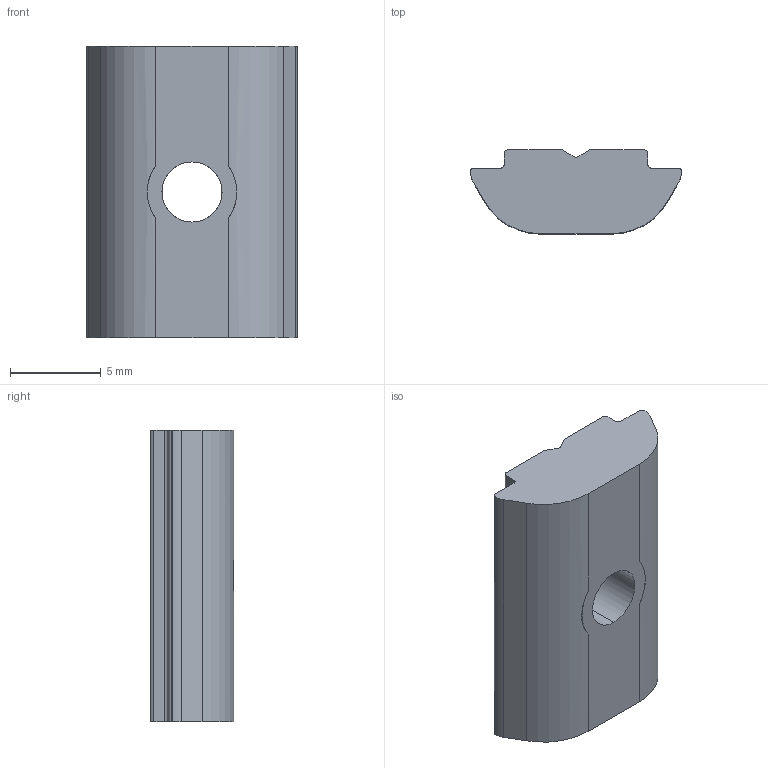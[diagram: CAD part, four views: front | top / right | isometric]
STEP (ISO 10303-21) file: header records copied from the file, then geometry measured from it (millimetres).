
FILE_DESCRIPTION (( 'STEP AP203' ), '1' );
FILE_NAME ('331001_Nutenstein Nut 8 M4 einschwenkbar.step', '2022-01-31T10:39:25', ( '' ), ( '' ), 'SwSTEP 2.0', 'SolidWorks 2021', '' );
FILE_SCHEMA (( 'CONFIG_CONTROL_DESIGN' ));
Length unit declared in the file: millimetre
Products named in the file (1): 331001_Nutenstein Nut 8 M4 einschwenkbar
Bounding box: 11.6 x 4.6 x 16 mm (x, y, z)
Volume: 640.8 mm3; surface area: 573.4 mm2
Topology: 1 solids, 1 shells, 33 faces, 96 edges, 64 vertices
Faces by surface type: plane 17, cylinder 16
Entity records: 1197 total; most frequent: CARTESIAN_POINT 236, ORIENTED_EDGE 192, DIRECTION 182, EDGE_CURVE 96, VERTEX_POINT 64, AXIS2_PLACEMENT_3D 62, LINE 58, VECTOR 58
